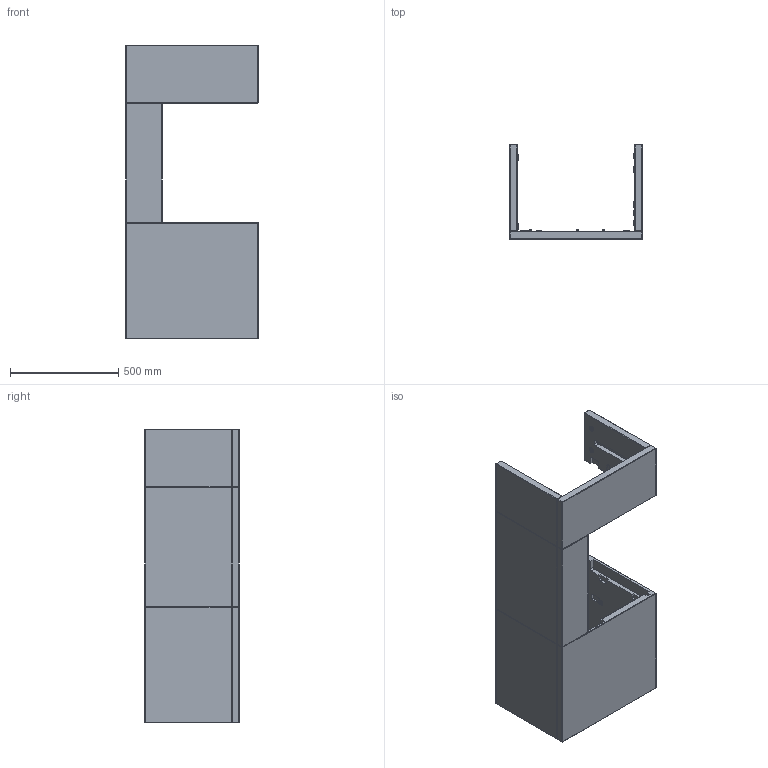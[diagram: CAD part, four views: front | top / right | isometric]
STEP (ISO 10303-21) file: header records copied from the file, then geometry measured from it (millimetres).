
FILE_DESCRIPTION(/* description */ ('Unknown'),/* implementation_level */ '2;1');
FILE_NAME(/* name */ 'DSN1132201_2_asm',/* time_stamp */ '2026-05-08T10:29:29+02:00',/* author */ ('Unknown'),/* organization */ ('Unknown'),/* preprocessor_version */ 'ST-DEVELOPER v20',/* originating_system */ 'Solid Edge',/* authorisation */ 'Unknown');
FILE_SCHEMA (('AUTOMOTIVE_DESIGN {1 0 10303 214 3 1 1}'));
Length unit declared in the file: millimetre
Products named in the file (20): DSN1132201; DSN1132204; 416194 Bricka med skruv; DSN1132205; DSN1132299; DSN1132295; DSN1132206; DSN1132207; DSN1132202; 016398 Skruv M6SF M6x12 OBEH; DSN1132203; 016727 Tread Insert M6; DSN1132208; DSN1132209; DSN1132319; DSN1132318; DSN1132321; DSN1132320; DSN1132323; DSN1132322
Assembly tree (52 placements, depth 3):
  DSN1132201
    DSN1132204
      416194 Bricka med skruv  x4
      DSN1132205
    DSN1132299
      DSN1132295
      416194 Bricka med skruv  x4
    DSN1132206
      416194 Bricka med skruv  x4
      DSN1132207
    DSN1132202
      016398 Skruv M6SF M6x12 OBEH  x4
      DSN1132203
      016727 Tread Insert M6  x4
    DSN1132208
      416194 Bricka med skruv  x4
      DSN1132209
    DSN1132319
      416194 Bricka med skruv  x4
      DSN1132318
    DSN1132321
      416194 Bricka med skruv  x4
      DSN1132320
    DSN1132323
      416194 Bricka med skruv  x4
      DSN1132322
Bounding box: 613 x 436 x 1357.5 mm (x, y, z)
Volume: 49269693.4 mm3; surface area: 3469775.3 mm2
Topology: 44 solids, 44 shells, 3479 faces, 8333 edges, 4890 vertices
Faces by surface type: cylinder 1456, plane 1011, torus 552, bspline 280, cone 180
Full cylindrical faces by diameter (mm): 4.918 x4, 5.5 x28, 6.2 x4, 8 x8, 8.4 x4, 10 x8, 12 x4, 17 x28, 25 x28, 35 x2
Entity records: 21782 total; most frequent: CARTESIAN_POINT 4490, DIRECTION 3469, ORIENTED_EDGE 3178, EDGE_CURVE 1589, AXIS2_PLACEMENT_3D 1238, VERTEX_POINT 1047, LINE 993, VECTOR 993
